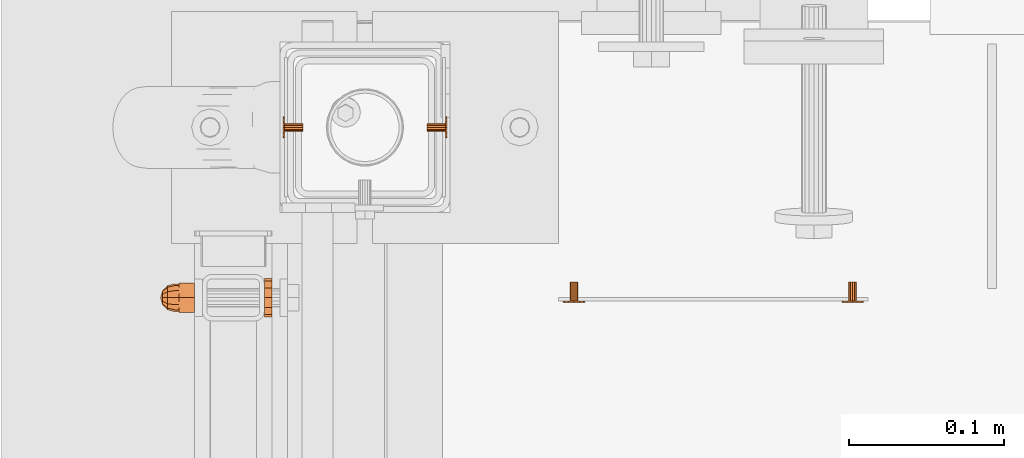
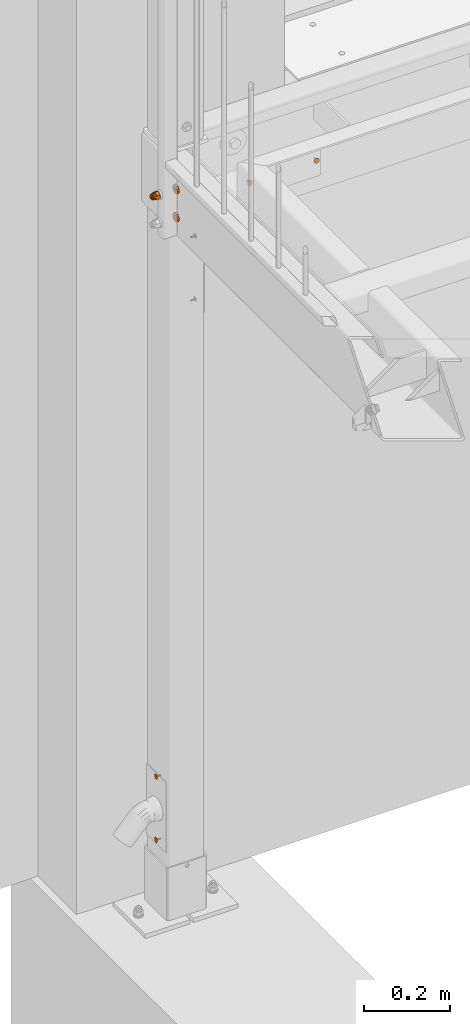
# One storey, part 106 of 116: 9 proxies.
"""IFC2X3 building model written with IfcOpenShell, lengths in millimetres."""

from ifc_helpers import new_model, entity, si_unit, converted_unit, origin_with_axes, place, context, project, spatial, faceted_brep, material, element, save


model = new_model("IFC2X3")

# Units and contexts
model_context = context("Model", 3, precision=1e-09, world=origin_with_axes())
ifc_project = project(units=[si_unit("LENGTHUNIT", "METRE", prefix="MILLI"), si_unit("AREAUNIT", "SQUARE_METRE"), si_unit("VOLUMEUNIT", "CUBIC_METRE"), converted_unit("PLANEANGLEUNIT", "DEGREE", entity("IfcPlaneAngleMeasure", 0.01745329), si_unit("PLANEANGLEUNIT", "RADIAN"), dimensions=[0, 0, 0, 0, 0, 0, 0])], contexts=[model_context])

# Site, building, storey
site_placement = place(None, origin_with_axes())
site = spatial("IfcSite", under=ifc_project, at=site_placement, Name="Site", CompositionType="ELEMENT")
building_placement = place(site_placement, origin_with_axes())
building = spatial("IfcBuilding", under=site, at=building_placement, Name="Struktur 1", CompositionType="ELEMENT")
storey_placement = place(building_placement, origin_with_axes())
storey = spatial("IfcBuildingStorey", under=building, at=storey_placement, Name="Default Storey", CompositionType="ELEMENT", Elevation=0.0)

# Proxies
ifc_material = material(Name="Kein")
proxy_1_placement = place(None, origin_with_axes())
element("IfcBuildingElementProxy", 1, at=proxy_1_placement, inside=storey, material=ifc_material, ObjectType="-", context=model_context, shape_type="Brep", body=[
    faceted_brep([(55389.049134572, 11969.358883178, -305.0), (55390.049134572, 11969.358883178, -305.0), (55390.049134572, 11968.421061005, -308.5), (55389.049134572, 11968.421061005, -308.5), (55389.049134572, 11968.421061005, -301.5), (55390.049134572, 11968.421061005, -301.5), (55390.049134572, 11958.858883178, -298.937822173), (55390.049134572, 11956.296705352, -301.5), (55390.049134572, 11955.358883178, -305.0), (55390.049134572, 11956.296705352, -308.5), (55390.049134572, 11958.858883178, -311.062177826), (55390.049134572, 11962.358883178, -312.0), (55390.049134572, 11965.858883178, -311.062177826), (55390.049134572, 11965.858883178, -298.937822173), (55390.049134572, 11962.358883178, -298.0), (55389.049134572, 11958.858883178, -311.062177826), (55389.049134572, 11956.296705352, -308.5), (55389.049134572, 11955.358883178, -305.0), (55389.049134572, 11956.296705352, -301.5), (55389.049134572, 11958.858883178, -298.937822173), (55389.049134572, 11962.358883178, -298.0), (55389.049134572, 11965.858883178, -298.937822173), (55389.049134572, 11965.858883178, -311.062177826), (55389.049134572, 11962.358883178, -312.0)], [[[0, 1, 2, 3]], [[1, 0, 4, 5]], [[6, 7, 8, 9, 10, 11, 12, 2, 1, 5, 13, 14]], [[15, 16, 17, 18, 19, 20, 21, 4, 0, 3, 22, 23]], [[3, 2, 12, 22]], [[5, 4, 21, 13]], [[11, 23, 22, 12]], [[10, 15, 23, 11]], [[13, 21, 20, 14]], [[16, 9, 8, 17]], [[15, 10, 9, 16]], [[17, 8, 7, 18]], [[14, 20, 19, 6]], [[18, 7, 6, 19]]]),
    faceted_brep([(55377.049134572, 11964.858883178, -305.0), (55389.049134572, 11964.858883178, -305.0), (55389.049134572, 11964.523946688, -306.25), (55377.049134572, 11964.523946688, -306.25), (55377.049134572, 11964.523946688, -303.75), (55389.049134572, 11964.523946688, -303.75), (55389.049134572, 11961.108883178, -302.83493649), (55389.049134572, 11960.193819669, -303.75), (55389.049134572, 11959.858883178, -305.0), (55389.049134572, 11960.193819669, -306.25), (55389.049134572, 11961.108883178, -307.165063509), (55389.049134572, 11962.358883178, -307.5), (55389.049134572, 11963.608883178, -307.165063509), (55389.049134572, 11963.608883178, -302.83493649), (55389.049134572, 11962.358883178, -302.5), (55377.049134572, 11961.108883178, -307.165063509), (55377.049134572, 11960.193819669, -306.25), (55377.049134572, 11959.858883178, -305.0), (55377.049134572, 11960.193819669, -303.75), (55377.049134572, 11961.108883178, -302.83493649), (55377.049134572, 11962.358883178, -302.5), (55377.049134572, 11963.608883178, -302.83493649), (55377.049134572, 11963.608883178, -307.165063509), (55377.049134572, 11962.358883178, -307.5)], [[[0, 1, 2, 3]], [[1, 0, 4, 5]], [[6, 7, 8, 9, 10, 11, 12, 2, 1, 5, 13, 14]], [[15, 16, 17, 18, 19, 20, 21, 4, 0, 3, 22, 23]], [[3, 2, 12, 22]], [[5, 4, 21, 13]], [[11, 23, 22, 12]], [[10, 15, 23, 11]], [[13, 21, 20, 14]], [[16, 9, 8, 17]], [[15, 10, 9, 16]], [[17, 8, 7, 18]], [[14, 20, 19, 6]], [[18, 7, 6, 19]]]),
])
proxy_2_placement = place(None, origin_with_axes())
element("IfcBuildingElementProxy", 2, at=proxy_2_placement, inside=storey, material=ifc_material, ObjectType="-", context=model_context, shape_type="Brep", body=[
    faceted_brep([(55389.049134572, 11969.358883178, -485.0), (55390.049134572, 11969.358883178, -485.0), (55390.049134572, 11968.421061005, -488.5), (55389.049134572, 11968.421061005, -488.5), (55389.049134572, 11968.421061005, -481.5), (55390.049134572, 11968.421061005, -481.5), (55390.049134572, 11958.858883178, -478.937822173), (55390.049134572, 11956.296705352, -481.5), (55390.049134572, 11955.358883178, -485.0), (55390.049134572, 11956.296705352, -488.5), (55390.049134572, 11958.858883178, -491.062177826), (55390.049134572, 11962.358883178, -492.0), (55390.049134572, 11965.858883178, -491.062177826), (55390.049134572, 11965.858883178, -478.937822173), (55390.049134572, 11962.358883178, -478.0), (55389.049134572, 11958.858883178, -491.062177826), (55389.049134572, 11956.296705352, -488.5), (55389.049134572, 11955.358883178, -485.0), (55389.049134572, 11956.296705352, -481.5), (55389.049134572, 11958.858883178, -478.937822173), (55389.049134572, 11962.358883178, -478.0), (55389.049134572, 11965.858883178, -478.937822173), (55389.049134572, 11965.858883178, -491.062177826), (55389.049134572, 11962.358883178, -492.0)], [[[0, 1, 2, 3]], [[1, 0, 4, 5]], [[6, 7, 8, 9, 10, 11, 12, 2, 1, 5, 13, 14]], [[15, 16, 17, 18, 19, 20, 21, 4, 0, 3, 22, 23]], [[3, 2, 12, 22]], [[5, 4, 21, 13]], [[11, 23, 22, 12]], [[10, 15, 23, 11]], [[13, 21, 20, 14]], [[16, 9, 8, 17]], [[15, 10, 9, 16]], [[17, 8, 7, 18]], [[14, 20, 19, 6]], [[18, 7, 6, 19]]]),
    faceted_brep([(55377.049134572, 11964.858883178, -485.0), (55389.049134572, 11964.858883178, -485.0), (55389.049134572, 11964.523946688, -486.25), (55377.049134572, 11964.523946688, -486.25), (55377.049134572, 11964.523946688, -483.75), (55389.049134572, 11964.523946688, -483.75), (55389.049134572, 11961.108883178, -482.83493649), (55389.049134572, 11960.193819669, -483.75), (55389.049134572, 11959.858883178, -485.0), (55389.049134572, 11960.193819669, -486.25), (55389.049134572, 11961.108883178, -487.165063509), (55389.049134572, 11962.358883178, -487.5), (55389.049134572, 11963.608883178, -487.165063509), (55389.049134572, 11963.608883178, -482.83493649), (55389.049134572, 11962.358883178, -482.5), (55377.049134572, 11961.108883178, -487.165063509), (55377.049134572, 11960.193819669, -486.25), (55377.049134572, 11959.858883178, -485.0), (55377.049134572, 11960.193819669, -483.75), (55377.049134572, 11961.108883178, -482.83493649), (55377.049134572, 11962.358883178, -482.5), (55377.049134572, 11963.608883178, -482.83493649), (55377.049134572, 11963.608883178, -487.165063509), (55377.049134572, 11962.358883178, -487.5)], [[[0, 1, 2, 3]], [[1, 0, 4, 5]], [[6, 7, 8, 9, 10, 11, 12, 2, 1, 5, 13, 14]], [[15, 16, 17, 18, 19, 20, 21, 4, 0, 3, 22, 23]], [[3, 2, 12, 22]], [[5, 4, 21, 13]], [[11, 23, 22, 12]], [[10, 15, 23, 11]], [[13, 21, 20, 14]], [[16, 9, 8, 17]], [[15, 10, 9, 16]], [[17, 8, 7, 18]], [[14, 20, 19, 6]], [[18, 7, 6, 19]]]),
])
proxy_3_placement = place(None, origin_with_axes())
element("IfcBuildingElementProxy", 3, at=proxy_3_placement, inside=storey, material=ifc_material, ObjectType="-", context=model_context, shape_type="Brep", body=[
    faceted_brep([(55284.049134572, 11969.358883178, -1987.0), (55285.049134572, 11969.358883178, -1987.0), (55285.049134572, 11968.421061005, -1990.5), (55284.049134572, 11968.421061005, -1990.5), (55284.049134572, 11968.421061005, -1983.5), (55285.049134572, 11968.421061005, -1983.5), (55284.049134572, 11956.296705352, -1983.5), (55284.049134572, 11958.858883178, -1980.937822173), (55284.049134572, 11962.358883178, -1980.0), (55284.049134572, 11965.858883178, -1980.937822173), (55284.049134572, 11965.858883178, -1993.062177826), (55284.049134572, 11962.358883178, -1994.0), (55284.049134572, 11958.858883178, -1993.062177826), (55284.049134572, 11956.296705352, -1990.5), (55284.049134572, 11955.358883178, -1987.0), (55285.049134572, 11956.296705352, -1990.5), (55285.049134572, 11958.858883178, -1993.062177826), (55285.049134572, 11962.358883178, -1994.0), (55285.049134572, 11965.858883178, -1993.062177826), (55285.049134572, 11965.858883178, -1980.937822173), (55285.049134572, 11962.358883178, -1980.0), (55285.049134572, 11958.858883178, -1980.937822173), (55285.049134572, 11956.296705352, -1983.5), (55285.049134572, 11955.358883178, -1987.0)], [[[0, 1, 2, 3]], [[1, 0, 4, 5]], [[6, 7, 8, 9, 4, 0, 3, 10, 11, 12, 13, 14]], [[15, 16, 17, 18, 2, 1, 5, 19, 20, 21, 22, 23]], [[3, 2, 18, 10]], [[5, 4, 9, 19]], [[17, 11, 10, 18]], [[16, 12, 11, 17]], [[19, 9, 8, 20]], [[13, 15, 23, 14]], [[12, 16, 15, 13]], [[14, 23, 22, 6]], [[20, 8, 7, 21]], [[6, 22, 21, 7]]]),
    faceted_brep([(55285.049134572, 11964.858883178, -1987.0), (55297.049134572, 11964.858883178, -1987.0), (55297.049134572, 11964.523946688, -1988.25), (55285.049134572, 11964.523946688, -1988.25), (55285.049134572, 11964.523946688, -1985.75), (55297.049134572, 11964.523946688, -1985.75), (55285.049134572, 11960.193819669, -1985.75), (55285.049134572, 11961.108883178, -1984.83493649), (55285.049134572, 11962.358883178, -1984.5), (55285.049134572, 11963.608883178, -1984.83493649), (55285.049134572, 11963.608883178, -1989.165063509), (55285.049134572, 11962.358883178, -1989.5), (55285.049134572, 11961.108883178, -1989.165063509), (55285.049134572, 11960.193819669, -1988.25), (55285.049134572, 11959.858883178, -1987.0), (55297.049134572, 11960.193819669, -1988.25), (55297.049134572, 11961.108883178, -1989.165063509), (55297.049134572, 11962.358883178, -1989.5), (55297.049134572, 11963.608883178, -1989.165063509), (55297.049134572, 11963.608883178, -1984.83493649), (55297.049134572, 11962.358883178, -1984.5), (55297.049134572, 11961.108883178, -1984.83493649), (55297.049134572, 11960.193819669, -1985.75), (55297.049134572, 11959.858883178, -1987.0)], [[[0, 1, 2, 3]], [[1, 0, 4, 5]], [[6, 7, 8, 9, 4, 0, 3, 10, 11, 12, 13, 14]], [[15, 16, 17, 18, 2, 1, 5, 19, 20, 21, 22, 23]], [[3, 2, 18, 10]], [[5, 4, 9, 19]], [[17, 11, 10, 18]], [[16, 12, 11, 17]], [[19, 9, 8, 20]], [[13, 15, 23, 14]], [[12, 16, 15, 13]], [[14, 23, 22, 6]], [[20, 8, 7, 21]], [[6, 22, 21, 7]]]),
])
proxy_4_placement = place(None, origin_with_axes())
element("IfcBuildingElementProxy", 4, at=proxy_4_placement, inside=storey, material=ifc_material, ObjectType="-", context=model_context, shape_type="Brep", body=[
    faceted_brep([(55284.049134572, 11969.358883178, -1807.0), (55285.049134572, 11969.358883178, -1807.0), (55285.049134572, 11968.421061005, -1810.5), (55284.049134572, 11968.421061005, -1810.5), (55284.049134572, 11968.421061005, -1803.5), (55285.049134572, 11968.421061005, -1803.5), (55284.049134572, 11956.296705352, -1803.5), (55284.049134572, 11958.858883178, -1800.937822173), (55284.049134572, 11962.358883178, -1800.0), (55284.049134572, 11965.858883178, -1800.937822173), (55284.049134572, 11965.858883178, -1813.062177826), (55284.049134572, 11962.358883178, -1814.0), (55284.049134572, 11958.858883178, -1813.062177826), (55284.049134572, 11956.296705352, -1810.5), (55284.049134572, 11955.358883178, -1807.0), (55285.049134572, 11956.296705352, -1810.5), (55285.049134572, 11958.858883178, -1813.062177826), (55285.049134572, 11962.358883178, -1814.0), (55285.049134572, 11965.858883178, -1813.062177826), (55285.049134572, 11965.858883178, -1800.937822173), (55285.049134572, 11962.358883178, -1800.0), (55285.049134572, 11958.858883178, -1800.937822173), (55285.049134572, 11956.296705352, -1803.5), (55285.049134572, 11955.358883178, -1807.0)], [[[0, 1, 2, 3]], [[1, 0, 4, 5]], [[6, 7, 8, 9, 4, 0, 3, 10, 11, 12, 13, 14]], [[15, 16, 17, 18, 2, 1, 5, 19, 20, 21, 22, 23]], [[3, 2, 18, 10]], [[5, 4, 9, 19]], [[17, 11, 10, 18]], [[16, 12, 11, 17]], [[19, 9, 8, 20]], [[13, 15, 23, 14]], [[12, 16, 15, 13]], [[14, 23, 22, 6]], [[20, 8, 7, 21]], [[6, 22, 21, 7]]]),
    faceted_brep([(55285.049134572, 11964.858883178, -1807.0), (55297.049134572, 11964.858883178, -1807.0), (55297.049134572, 11964.523946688, -1808.25), (55285.049134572, 11964.523946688, -1808.25), (55285.049134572, 11964.523946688, -1805.75), (55297.049134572, 11964.523946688, -1805.75), (55285.049134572, 11960.193819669, -1805.75), (55285.049134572, 11961.108883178, -1804.83493649), (55285.049134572, 11962.358883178, -1804.5), (55285.049134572, 11963.608883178, -1804.83493649), (55285.049134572, 11963.608883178, -1809.165063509), (55285.049134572, 11962.358883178, -1809.5), (55285.049134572, 11961.108883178, -1809.165063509), (55285.049134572, 11960.193819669, -1808.25), (55285.049134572, 11959.858883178, -1807.0), (55297.049134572, 11960.193819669, -1808.25), (55297.049134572, 11961.108883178, -1809.165063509), (55297.049134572, 11962.358883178, -1809.5), (55297.049134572, 11963.608883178, -1809.165063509), (55297.049134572, 11963.608883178, -1804.83493649), (55297.049134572, 11962.358883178, -1804.5), (55297.049134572, 11961.108883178, -1804.83493649), (55297.049134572, 11960.193819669, -1805.75), (55297.049134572, 11959.858883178, -1807.0)], [[[0, 1, 2, 3]], [[1, 0, 4, 5]], [[6, 7, 8, 9, 4, 0, 3, 10, 11, 12, 13, 14]], [[15, 16, 17, 18, 2, 1, 5, 19, 20, 21, 22, 23]], [[3, 2, 18, 10]], [[5, 4, 9, 19]], [[17, 11, 10, 18]], [[16, 12, 11, 17]], [[19, 9, 8, 20]], [[13, 15, 23, 14]], [[12, 16, 15, 13]], [[14, 23, 22, 6]], [[20, 8, 7, 21]], [[6, 22, 21, 7]]]),
])
proxy_5_placement = place(None, origin_with_axes())
element("IfcBuildingElementProxy", 5, at=proxy_5_placement, inside=storey, material=ifc_material, ObjectType="-", context=model_context, shape_type="Brep", body=[
    faceted_brep([(55472.050548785, 11850.358883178, -122.0), (55472.050548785, 11849.358883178, -122.0), (55468.550548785, 11849.358883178, -121.062177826), (55468.550548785, 11850.358883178, -121.062177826), (55475.550548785, 11850.358883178, -121.062177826), (55475.550548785, 11849.358883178, -121.062177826), (55478.112726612, 11849.358883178, -111.5), (55475.550548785, 11849.358883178, -108.937822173), (55472.050548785, 11849.358883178, -108.0), (55468.550548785, 11849.358883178, -108.937822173), (55465.988370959, 11849.358883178, -111.5), (55465.050548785, 11849.358883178, -115.0), (55465.988370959, 11849.358883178, -118.5), (55478.112726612, 11849.358883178, -118.5), (55479.050548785, 11849.358883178, -115.0), (55465.988370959, 11850.358883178, -111.5), (55468.550548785, 11850.358883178, -108.937822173), (55472.050548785, 11850.358883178, -108.0), (55475.550548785, 11850.358883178, -108.937822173), (55478.112726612, 11850.358883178, -111.5), (55479.050548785, 11850.358883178, -115.0), (55478.112726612, 11850.358883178, -118.5), (55465.988370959, 11850.358883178, -118.5), (55465.050548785, 11850.358883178, -115.0)], [[[0, 1, 2, 3]], [[1, 0, 4, 5]], [[6, 7, 8, 9, 10, 11, 12, 2, 1, 5, 13, 14]], [[15, 16, 17, 18, 19, 20, 21, 4, 0, 3, 22, 23]], [[3, 2, 12, 22]], [[5, 4, 21, 13]], [[11, 23, 22, 12]], [[10, 15, 23, 11]], [[13, 21, 20, 14]], [[16, 9, 8, 17]], [[15, 10, 9, 16]], [[17, 8, 7, 18]], [[14, 20, 19, 6]], [[18, 7, 6, 19]]]),
    faceted_brep([(55472.050548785, 11862.358883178, -117.5), (55472.050548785, 11850.358883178, -117.5), (55470.800548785, 11850.358883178, -117.165063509), (55470.800548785, 11862.358883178, -117.165063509), (55473.300548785, 11862.358883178, -117.165063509), (55473.300548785, 11850.358883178, -117.165063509), (55474.215612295, 11850.358883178, -113.75), (55473.300548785, 11850.358883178, -112.83493649), (55472.050548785, 11850.358883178, -112.5), (55470.800548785, 11850.358883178, -112.83493649), (55469.885485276, 11850.358883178, -113.75), (55469.550548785, 11850.358883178, -115.0), (55469.885485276, 11850.358883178, -116.25), (55474.215612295, 11850.358883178, -116.25), (55474.550548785, 11850.358883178, -115.0), (55469.885485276, 11862.358883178, -113.75), (55470.800548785, 11862.358883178, -112.83493649), (55472.050548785, 11862.358883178, -112.5), (55473.300548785, 11862.358883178, -112.83493649), (55474.215612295, 11862.358883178, -113.75), (55474.550548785, 11862.358883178, -115.0), (55474.215612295, 11862.358883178, -116.25), (55469.885485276, 11862.358883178, -116.25), (55469.550548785, 11862.358883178, -115.0)], [[[0, 1, 2, 3]], [[1, 0, 4, 5]], [[6, 7, 8, 9, 10, 11, 12, 2, 1, 5, 13, 14]], [[15, 16, 17, 18, 19, 20, 21, 4, 0, 3, 22, 23]], [[3, 2, 12, 22]], [[5, 4, 21, 13]], [[11, 23, 22, 12]], [[10, 15, 23, 11]], [[13, 21, 20, 14]], [[16, 9, 8, 17]], [[15, 10, 9, 16]], [[17, 8, 7, 18]], [[14, 20, 19, 6]], [[18, 7, 6, 19]]]),
])
proxy_6_placement = place(None, origin_with_axes())
element("IfcBuildingElementProxy", 6, at=proxy_6_placement, inside=storey, material=ifc_material, ObjectType="-", context=model_context, shape_type="Brep", body=[
    faceted_brep([(55652.050548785, 11850.358883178, -122.0), (55652.050548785, 11849.358883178, -122.0), (55648.550548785, 11849.358883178, -121.062177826), (55648.550548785, 11850.358883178, -121.062177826), (55655.550548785, 11850.358883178, -121.062177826), (55655.550548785, 11849.358883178, -121.062177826), (55658.112726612, 11849.358883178, -111.5), (55655.550548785, 11849.358883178, -108.937822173), (55652.050548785, 11849.358883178, -108.0), (55648.550548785, 11849.358883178, -108.937822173), (55645.988370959, 11849.358883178, -111.5), (55645.050548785, 11849.358883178, -115.0), (55645.988370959, 11849.358883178, -118.5), (55658.112726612, 11849.358883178, -118.5), (55659.050548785, 11849.358883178, -115.0), (55645.988370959, 11850.358883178, -111.5), (55648.550548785, 11850.358883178, -108.937822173), (55652.050548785, 11850.358883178, -108.0), (55655.550548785, 11850.358883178, -108.937822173), (55658.112726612, 11850.358883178, -111.5), (55659.050548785, 11850.358883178, -115.0), (55658.112726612, 11850.358883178, -118.5), (55645.988370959, 11850.358883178, -118.5), (55645.050548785, 11850.358883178, -115.0)], [[[0, 1, 2, 3]], [[1, 0, 4, 5]], [[6, 7, 8, 9, 10, 11, 12, 2, 1, 5, 13, 14]], [[15, 16, 17, 18, 19, 20, 21, 4, 0, 3, 22, 23]], [[3, 2, 12, 22]], [[5, 4, 21, 13]], [[11, 23, 22, 12]], [[10, 15, 23, 11]], [[13, 21, 20, 14]], [[16, 9, 8, 17]], [[15, 10, 9, 16]], [[17, 8, 7, 18]], [[14, 20, 19, 6]], [[18, 7, 6, 19]]]),
    faceted_brep([(55652.050548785, 11862.358883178, -117.5), (55652.050548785, 11850.358883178, -117.5), (55650.800548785, 11850.358883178, -117.165063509), (55650.800548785, 11862.358883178, -117.165063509), (55653.300548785, 11862.358883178, -117.165063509), (55653.300548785, 11850.358883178, -117.165063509), (55654.215612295, 11850.358883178, -113.75), (55653.300548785, 11850.358883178, -112.83493649), (55652.050548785, 11850.358883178, -112.5), (55650.800548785, 11850.358883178, -112.83493649), (55649.885485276, 11850.358883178, -113.75), (55649.550548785, 11850.358883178, -115.0), (55649.885485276, 11850.358883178, -116.25), (55654.215612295, 11850.358883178, -116.25), (55654.550548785, 11850.358883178, -115.0), (55649.885485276, 11862.358883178, -113.75), (55650.800548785, 11862.358883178, -112.83493649), (55652.050548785, 11862.358883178, -112.5), (55653.300548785, 11862.358883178, -112.83493649), (55654.215612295, 11862.358883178, -113.75), (55654.550548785, 11862.358883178, -115.0), (55654.215612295, 11862.358883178, -116.25), (55649.885485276, 11862.358883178, -116.25), (55649.550548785, 11862.358883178, -115.0)], [[[0, 1, 2, 3]], [[1, 0, 4, 5]], [[6, 7, 8, 9, 10, 11, 12, 2, 1, 5, 13, 14]], [[15, 16, 17, 18, 19, 20, 21, 4, 0, 3, 22, 23]], [[3, 2, 12, 22]], [[5, 4, 21, 13]], [[11, 23, 22, 12]], [[10, 15, 23, 11]], [[13, 21, 20, 14]], [[16, 9, 8, 17]], [[15, 10, 9, 16]], [[17, 8, 7, 18]], [[14, 20, 19, 6]], [[18, 7, 6, 19]]]),
])
proxy_7_placement = place(None, origin_with_axes())
element("IfcBuildingElementProxy", 7, at=proxy_7_placement, inside=storey, material=ifc_material, ObjectType="-", context=model_context, shape_type="Brep", body=[
    faceted_brep([(55272.049134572, 11863.184200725, -151.25), (55272.049134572, 11858.608883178, -155.825317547), (55272.049134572, 11852.358883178, -157.5), (55272.049134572, 11846.108883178, -155.825317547), (55272.049134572, 11841.533565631, -151.25), (55272.049134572, 11839.858883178, -145.0), (55272.049134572, 11841.533565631, -138.75), (55272.049134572, 11846.108883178, -134.174682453), (55272.049134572, 11852.358883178, -132.5), (55272.049134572, 11858.608883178, -134.174682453), (55272.049134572, 11863.184200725, -138.75), (55272.049134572, 11864.858883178, -145.0), (55272.049134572, 11852.358883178, -151.0), (55272.049134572, 11855.358883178, -150.196152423), (55272.049134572, 11857.555035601, -148.0), (55272.049134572, 11858.358883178, -145.0), (55272.049134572, 11857.555035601, -142.0), (55272.049134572, 11855.358883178, -139.803847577), (55272.049134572, 11852.358883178, -139.0), (55272.049134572, 11849.358883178, -139.803847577), (55272.049134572, 11847.162730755, -142.0), (55272.049134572, 11846.358883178, -145.0), (55272.049134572, 11847.162730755, -148.0), (55272.049134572, 11849.358883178, -150.196152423), (55277.049134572, 11863.184200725, -151.25), (55277.049134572, 11858.608883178, -155.825317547), (55277.049134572, 11864.858883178, -145.0), (55277.049134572, 11863.184200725, -138.75), (55277.049134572, 11858.608883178, -134.174682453), (55277.049134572, 11852.358883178, -132.5), (55277.049134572, 11846.108883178, -134.174682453), (55277.049134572, 11841.533565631, -138.75), (55277.049134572, 11839.858883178, -145.0), (55277.049134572, 11841.533565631, -151.25), (55277.049134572, 11846.108883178, -155.825317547), (55277.049134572, 11852.358883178, -157.5), (55277.049134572, 11857.555035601, -142.0), (55277.049134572, 11858.358883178, -145.0), (55277.049134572, 11857.555035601, -148.0), (55277.049134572, 11855.358883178, -150.196152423), (55277.049134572, 11852.358883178, -151.0), (55277.049134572, 11849.358883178, -150.196152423), (55277.049134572, 11847.162730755, -148.0), (55277.049134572, 11846.358883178, -145.0), (55277.049134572, 11847.162730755, -142.0), (55277.049134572, 11849.358883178, -139.803847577), (55277.049134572, 11852.358883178, -139.0), (55277.049134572, 11855.358883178, -139.803847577)], [[[0, 1, 2, 3, 4, 5, 6, 7, 8, 9, 10, 11], [12, 13, 14, 15, 16, 17, 18, 19, 20, 21, 22, 23]], [[0, 24, 25, 1]], [[24, 26, 27, 28, 29, 30, 31, 32, 33, 34, 35, 25], [36, 37, 38, 39, 40, 41, 42, 43, 44, 45, 46, 47]], [[38, 14, 13, 39]], [[24, 0, 11, 26]], [[14, 38, 37, 15]], [[39, 13, 12, 40]], [[1, 25, 35, 2]], [[26, 11, 10, 27]], [[15, 37, 36, 16]], [[40, 12, 23, 41]], [[2, 35, 34, 3]], [[27, 10, 9, 28]], [[16, 36, 47, 17]], [[22, 42, 41, 23]], [[3, 34, 33, 4]], [[42, 22, 21, 43]], [[28, 9, 8, 29]], [[17, 47, 46, 18]], [[20, 44, 43, 21]], [[4, 33, 32, 5]], [[45, 19, 18, 46]], [[44, 20, 19, 45]], [[29, 8, 7, 30]], [[5, 32, 31, 6]], [[30, 7, 6, 31]]]),
])
proxy_8_placement = place(None, origin_with_axes())
element("IfcBuildingElementProxy", 8, at=proxy_8_placement, inside=storey, material=ifc_material, ObjectType="-", context=model_context, shape_type="Brep", body=[
    faceted_brep([(55272.049134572, 11863.184200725, -71.25), (55272.049134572, 11858.608883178, -75.825317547), (55272.049134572, 11852.358883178, -77.5), (55272.049134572, 11846.108883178, -75.825317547), (55272.049134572, 11841.533565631, -71.25), (55272.049134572, 11839.858883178, -65.0), (55272.049134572, 11841.533565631, -58.75), (55272.049134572, 11846.108883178, -54.174682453), (55272.049134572, 11852.358883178, -52.5), (55272.049134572, 11858.608883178, -54.174682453), (55272.049134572, 11863.184200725, -58.75), (55272.049134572, 11864.858883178, -65.0), (55272.049134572, 11852.358883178, -71.0), (55272.049134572, 11855.358883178, -70.196152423), (55272.049134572, 11857.555035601, -68.0), (55272.049134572, 11858.358883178, -65.0), (55272.049134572, 11857.555035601, -62.0), (55272.049134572, 11855.358883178, -59.803847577), (55272.049134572, 11852.358883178, -59.0), (55272.049134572, 11849.358883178, -59.803847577), (55272.049134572, 11847.162730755, -62.0), (55272.049134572, 11846.358883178, -65.0), (55272.049134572, 11847.162730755, -68.0), (55272.049134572, 11849.358883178, -70.196152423), (55277.049134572, 11863.184200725, -71.25), (55277.049134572, 11858.608883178, -75.825317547), (55277.049134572, 11864.858883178, -65.0), (55277.049134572, 11863.184200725, -58.75), (55277.049134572, 11858.608883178, -54.174682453), (55277.049134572, 11852.358883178, -52.5), (55277.049134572, 11846.108883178, -54.174682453), (55277.049134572, 11841.533565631, -58.75), (55277.049134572, 11839.858883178, -65.0), (55277.049134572, 11841.533565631, -71.25), (55277.049134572, 11846.108883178, -75.825317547), (55277.049134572, 11852.358883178, -77.5), (55277.049134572, 11857.555035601, -62.0), (55277.049134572, 11858.358883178, -65.0), (55277.049134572, 11857.555035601, -68.0), (55277.049134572, 11855.358883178, -70.196152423), (55277.049134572, 11852.358883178, -71.0), (55277.049134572, 11849.358883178, -70.196152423), (55277.049134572, 11847.162730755, -68.0), (55277.049134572, 11846.358883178, -65.0), (55277.049134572, 11847.162730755, -62.0), (55277.049134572, 11849.358883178, -59.803847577), (55277.049134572, 11852.358883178, -59.0), (55277.049134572, 11855.358883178, -59.803847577)], [[[0, 1, 2, 3, 4, 5, 6, 7, 8, 9, 10, 11], [12, 13, 14, 15, 16, 17, 18, 19, 20, 21, 22, 23]], [[0, 24, 25, 1]], [[24, 26, 27, 28, 29, 30, 31, 32, 33, 34, 35, 25], [36, 37, 38, 39, 40, 41, 42, 43, 44, 45, 46, 47]], [[38, 14, 13, 39]], [[24, 0, 11, 26]], [[14, 38, 37, 15]], [[39, 13, 12, 40]], [[1, 25, 35, 2]], [[26, 11, 10, 27]], [[15, 37, 36, 16]], [[40, 12, 23, 41]], [[2, 35, 34, 3]], [[27, 10, 9, 28]], [[16, 36, 47, 17]], [[22, 42, 41, 23]], [[3, 34, 33, 4]], [[42, 22, 21, 43]], [[28, 9, 8, 29]], [[17, 47, 46, 18]], [[20, 44, 43, 21]], [[4, 33, 32, 5]], [[45, 19, 18, 46]], [[44, 20, 19, 45]], [[29, 8, 7, 30]], [[5, 32, 31, 6]], [[30, 7, 6, 31]]]),
])
proxy_9_placement = place(None, origin_with_axes())
element("IfcBuildingElementProxy", 9, at=proxy_9_placement, inside=storey, material=ifc_material, ObjectType="-", context=model_context, shape_type="Brep", body=[
    faceted_brep([(55227.049134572, 11858.358883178, -65.0), (55217.049134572, 11858.358883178, -65.0), (55217.049134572, 11857.555035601, -68.0), (55227.049134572, 11857.555035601, -68.0), (55217.049134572, 11855.358883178, -70.196152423), (55227.049134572, 11855.358883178, -70.196152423), (55227.049134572, 11857.555035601, -62.0), (55217.049134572, 11857.555035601, -62.0), (55227.049134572, 11861.838752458, -59.526794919), (55227.049134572, 11852.358883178, -54.053589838), (55227.049134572, 11842.879013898, -59.526794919), (55227.049134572, 11842.879013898, -70.473205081), (55227.049134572, 11852.358883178, -75.946410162), (55227.049134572, 11861.838752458, -70.473205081), (55227.049134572, 11855.358883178, -59.803847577), (55227.049134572, 11852.358883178, -71.0), (55227.049134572, 11849.358883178, -70.196152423), (55227.049134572, 11847.162730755, -68.0), (55227.049134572, 11846.358883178, -65.0), (55227.049134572, 11847.162730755, -62.0), (55227.049134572, 11849.358883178, -59.803847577), (55227.049134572, 11852.358883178, -59.0), (55217.049134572, 11852.358883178, -54.053589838), (55217.049134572, 11861.838752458, -59.526794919), (55217.049134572, 11861.838752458, -70.473205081), (55217.049134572, 11852.358883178, -75.946410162), (55217.049134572, 11842.879013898, -70.473205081), (55217.049134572, 11842.879013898, -59.526794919), (55217.049134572, 11855.358883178, -59.803847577), (55217.049134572, 11852.358883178, -59.0), (55217.049134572, 11849.358883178, -59.803847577), (55217.049134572, 11847.162730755, -62.0), (55217.049134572, 11846.358883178, -65.0), (55217.049134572, 11847.162730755, -68.0), (55217.049134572, 11849.358883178, -70.196152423), (55217.049134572, 11852.358883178, -71.0)], [[[0, 1, 2, 3]], [[3, 2, 4, 5]], [[1, 0, 6, 7]], [[8, 9, 10, 11, 12, 13], [14, 6, 0, 3, 5, 15, 16, 17, 18, 19, 20, 21]], [[22, 23, 24, 25, 26, 27], [1, 7, 28, 29, 30, 31, 32, 33, 34, 35, 4, 2]], [[7, 6, 14, 28]], [[24, 23, 8, 13]], [[5, 4, 35, 15]], [[13, 12, 25, 24]], [[28, 14, 21, 29]], [[23, 22, 9, 8]], [[15, 35, 34, 16]], [[12, 11, 26, 25]], [[29, 21, 20, 30]], [[22, 27, 10, 9]], [[16, 34, 33, 17]], [[27, 26, 11, 10]], [[30, 20, 19, 31]], [[17, 33, 32, 18]], [[31, 19, 18, 32]]]),
    faceted_brep([(55217.049134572, 11852.358883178, -56.0), (55214.049134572, 11852.358883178, -56.0), (55214.049134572, 11847.858883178, -57.205771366), (55217.049134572, 11847.858883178, -57.205771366), (55217.049134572, 11856.858883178, -57.205771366), (55214.049134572, 11856.858883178, -57.205771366), (55214.049134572, 11860.153111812, -69.5), (55214.049134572, 11856.858883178, -72.794228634), (55214.049134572, 11852.358883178, -74.0), (55214.049134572, 11847.858883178, -72.794228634), (55214.049134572, 11844.564654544, -69.5), (55214.049134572, 11843.358883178, -65.0), (55214.049134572, 11844.564654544, -60.5), (55214.049134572, 11860.153111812, -60.5), (55214.049134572, 11861.358883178, -65.0), (55217.049134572, 11844.564654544, -69.5), (55217.049134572, 11847.858883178, -72.794228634), (55217.049134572, 11852.358883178, -74.0), (55217.049134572, 11856.858883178, -72.794228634), (55217.049134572, 11860.153111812, -69.5), (55217.049134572, 11861.358883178, -65.0), (55217.049134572, 11860.153111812, -60.5), (55217.049134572, 11844.564654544, -60.5), (55217.049134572, 11843.358883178, -65.0)], [[[0, 1, 2, 3]], [[1, 0, 4, 5]], [[6, 7, 8, 9, 10, 11, 12, 2, 1, 5, 13, 14]], [[15, 16, 17, 18, 19, 20, 21, 4, 0, 3, 22, 23]], [[3, 2, 12, 22]], [[5, 4, 21, 13]], [[22, 12, 11, 23]], [[13, 21, 20, 14]], [[7, 18, 17, 8]], [[19, 6, 14, 20]], [[18, 7, 6, 19]], [[23, 11, 10, 15]], [[8, 17, 16, 9]], [[15, 10, 9, 16]]]),
    faceted_brep([(55214.049134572, 11860.153111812, -60.5), (55209.549134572, 11859.108883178, -61.102885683), (55209.549134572, 11856.255997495, -58.25), (55214.049134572, 11856.858883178, -57.205771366), (55214.049134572, 11844.564654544, -69.5), (55214.049134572, 11847.858883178, -72.794228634), (55214.049134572, 11852.358883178, -74.0), (55214.049134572, 11856.858883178, -72.794228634), (55214.049134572, 11860.153111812, -69.5), (55214.049134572, 11861.358883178, -65.0), (55214.049134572, 11852.358883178, -56.0), (55214.049134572, 11847.858883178, -57.205771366), (55214.049134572, 11844.564654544, -60.5), (55214.049134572, 11843.358883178, -65.0), (55209.549134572, 11852.358883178, -57.205771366), (55209.549134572, 11860.153111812, -65.0), (55206.254905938, 11856.858883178, -65.0), (55206.254905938, 11856.255997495, -62.75), (55209.549134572, 11848.461768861, -58.25), (55206.254905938, 11854.608883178, -61.102885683), (55209.549134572, 11859.108883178, -68.897114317), (55206.254905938, 11856.255997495, -67.25), (55206.254905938, 11852.358883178, -60.5), (55205.049134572, 11852.358883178, -65.0), (55209.549134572, 11856.255997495, -71.75), (55206.254905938, 11854.608883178, -68.897114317), (55209.549134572, 11852.358883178, -72.794228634), (55209.549134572, 11845.608883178, -61.102885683), (55206.254905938, 11850.108883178, -61.102885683), (55206.254905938, 11852.358883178, -69.5), (55209.549134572, 11848.461768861, -71.75), (55206.254905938, 11850.108883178, -68.897114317), (55209.549134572, 11844.564654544, -65.0), (55206.254905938, 11848.461768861, -62.75), (55209.549134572, 11845.608883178, -68.897114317), (55206.254905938, 11848.461768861, -67.25), (55206.254905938, 11847.858883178, -65.0)], [[[0, 1, 2, 3]], [[4, 5, 6, 7, 8, 9, 0, 3, 10, 11, 12, 13]], [[3, 2, 14, 10]], [[15, 16, 17, 1]], [[1, 0, 9, 15]], [[10, 14, 18, 11]], [[1, 17, 19, 2]], [[16, 15, 20, 21]], [[2, 19, 22, 14]], [[23, 17, 16]], [[24, 25, 21, 20]], [[23, 16, 21]], [[24, 7, 6, 26]], [[20, 8, 7, 24]], [[15, 9, 8, 20]], [[11, 18, 27, 12]], [[14, 22, 28, 18]], [[23, 19, 17]], [[26, 29, 25, 24]], [[23, 21, 25]], [[23, 22, 19]], [[26, 6, 5, 30]], [[29, 26, 30, 31]], [[23, 25, 29]], [[12, 27, 32, 13]], [[18, 28, 33, 27]], [[23, 28, 22]], [[23, 29, 31]], [[23, 33, 28]], [[30, 5, 4, 34]], [[31, 30, 34, 35]], [[23, 31, 35]], [[13, 32, 34, 4]], [[27, 33, 36, 32]], [[23, 36, 33]], [[23, 35, 36]], [[35, 34, 32, 36]]]),
])

save(model, "model.ifc")
